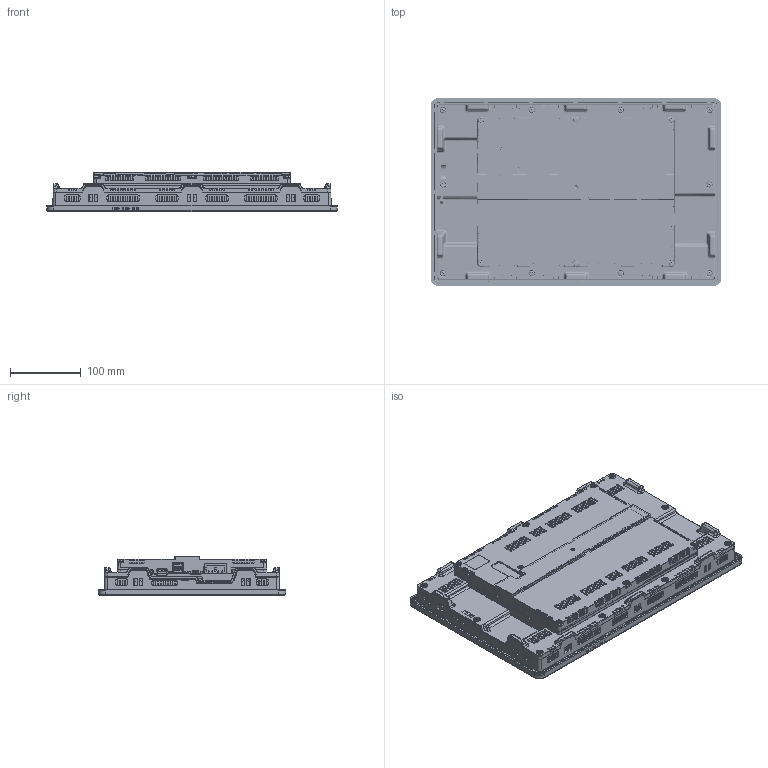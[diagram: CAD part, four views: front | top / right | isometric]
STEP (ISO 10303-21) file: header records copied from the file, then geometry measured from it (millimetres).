
FILE_DESCRIPTION (( 'STEP AP214' ), '1' );
FILE_NAME ('USP-156-B10.STEP', '2014-10-20T08:00:15', ( 'dell' ), ( '' ), 'SwSTEP 2.0', 'SolidWorks 2011', '' );
FILE_SCHEMA (( 'AUTOMOTIVE_DESIGN' ));
Products named in the file (1): USP-156-B10
Bounding box: 411.09 x 265.09 x 55.6 mm (x, y, z)
Volume: 4194473.5 mm3; surface area: 445507.5 mm2
Topology: 1 solids, 34 shells, 7566 faces, 21413 edges, 13766 vertices
Faces by surface type: plane 4607, cylinder 1471, bspline 661, cone 530, sphere 168, torus 129
Entity records: 262992 total; most frequent: CARTESIAN_POINT 76142, ORIENTED_EDGE 42814, DIRECTION 34397, EDGE_CURVE 21407, VECTOR 14691, LINE 14691, VERTEX_POINT 13766, AXIS2_PLACEMENT_3D 9853
